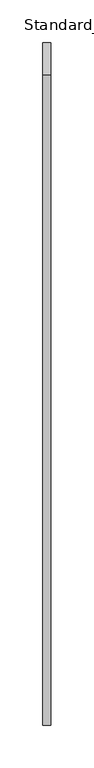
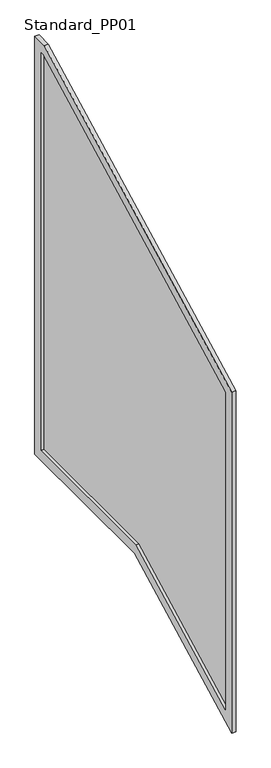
"""IFC4 building model written with IfcOpenShell, lengths in millimetres: railing geometry, Baluster-Landing-Panel-VIVA-STRUC-Lower : Standard_PP01."""

from ifc_helpers import new_model, si_unit, frame, origin, place, context, project, spatial, polyline, outline, extrude, source, transform, mapped, element, save


def standard_pp01_6004dbfb(model_context):
    return source(origin(), model_context, "Body", "SweptSolid", [
        extrude(outline(polyline([(388.4148692, -77.474387), (25.4, -266.4479668), (25.4, 519.7841206), (767.592344, 906.145), (773.9140023, 906.145), (773.9140023, -77.474387), (388.4148692, -77.474387)])), frame((14.2584857, 0.0, 0.0), z_axis=(1.0, 0.0, 0.0), x_axis=(0.0, 1.0, 0.0)), (0.0, 0.0, 1.0), 2.9972),
        extrude(outline(polyline([(0.0, -308.3058714), (0.0, 535.1972189), (761.3770035, 931.545), (799.3140023, 931.545), (799.3140023, -102.874387), (394.6302097, -102.874387), (0.0, -308.3058714)]), holes=[polyline([(773.9140023, 906.145), (767.592344, 906.145), (25.4, 519.7841206), (25.4, -266.4479668), (388.4148692, -77.474387), (773.9140023, -77.474387), (773.9140023, 906.145)])]), frame((7.6036857, 0.0, 0.0), z_axis=(1.0, 0.0, 0.0), x_axis=(0.0, 1.0, 0.0)), (0.0, 0.0, 1.0), 9.652),
    ])


if __name__ == "__main__":
    model = new_model("IFC4")
    model_context = context("Model", 3, world=origin())
    ifc_project = project(units=[si_unit("LENGTHUNIT", "METRE", prefix="MILLI")], contexts=[model_context])
    site = spatial("IfcSite", under=ifc_project)
    building = spatial("IfcBuilding", under=site)
    placement = place(None, origin())
    standard_pp01_shape = standard_pp01_6004dbfb(model_context)
    element("IfcRailing", 1, ObjectType="Baluster-Landing-Panel-VIVA-STRUC-Lower : Standard_PP01", at=placement, inside=building, context=model_context, shape_type="MappedRepresentation", body=[
        mapped(standard_pp01_shape, transform((0.0, 0.0, 0.0), x_axis=(1.0, 0.0, 0.0), y_axis=(0.0, 1.0, 0.0), z_axis=(0.0, 0.0, 1.0))),
    ])
    save(model, "model.ifc")
